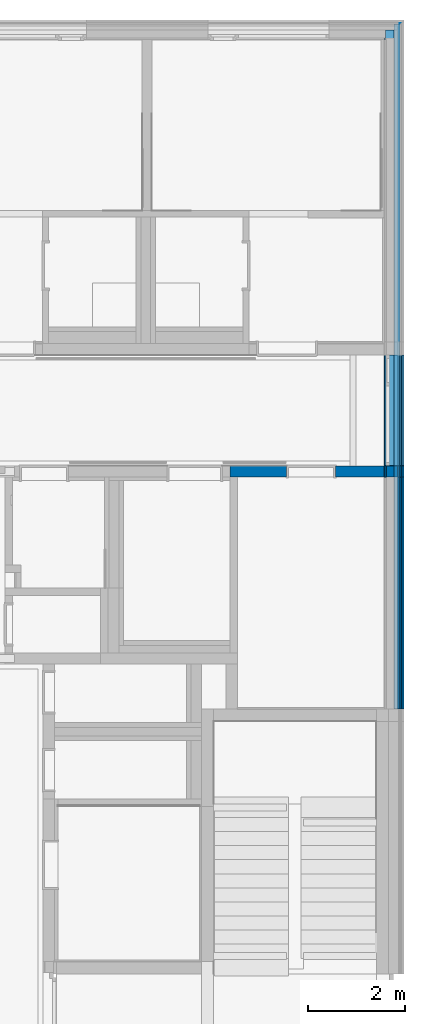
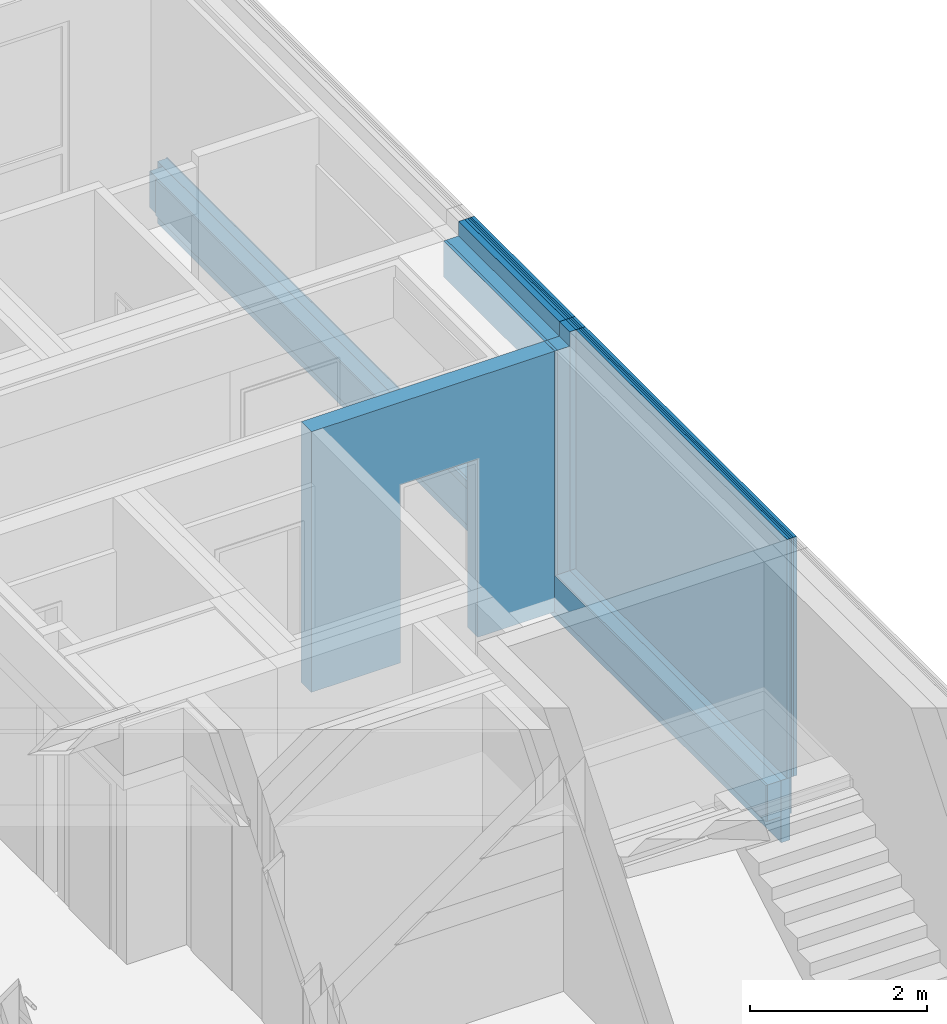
# One storey, part 57 of 207: 23 walls, 8 openings.
"""IFC4 building model written with IfcOpenShell, lengths in metres."""

from ifc_helpers import new_model, entity, si_unit, converted_unit, derived_unit, frame, frame_2d, origin, origin_with_axes, place, context, subcontext, project, spatial, polyline, rectangle, outline, extrude, material, element, save


model = new_model("IFC4")

# Units and contexts
model_context = context("Model", 3, precision=1e-05, world=origin())
body_context = subcontext(model_context, "Body", "Model", "MODEL_VIEW")
ifc_project = project(units=[si_unit("LENGTHUNIT", "METRE"), si_unit("AREAUNIT", "SQUARE_METRE"), si_unit("VOLUMEUNIT", "CUBIC_METRE"), si_unit("MASSUNIT", "GRAM", prefix="KILO"), converted_unit("PLANEANGLEUNIT", "DEGREE", entity("IfcPlaneAngleMeasure", 0.0174532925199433), si_unit("PLANEANGLEUNIT", "RADIAN"), dimensions=[0, 0, 0, 0, 0, 0, 0]), derived_unit("THERMALTRANSMITTANCEUNIT", [(si_unit("POWERUNIT", "WATT"), 1), (si_unit("THERMODYNAMICTEMPERATUREUNIT", "KELVIN"), -1), (si_unit("LENGTHUNIT", "METRE"), -2)]), derived_unit("VOLUMETRICFLOWRATEUNIT", [(si_unit("LENGTHUNIT", "METRE"), 3), (converted_unit("TIMEUNIT", "hour", entity("IfcTimeMeasure", 3600.0), si_unit("TIMEUNIT", "SECOND"), dimensions=[0, 0, 1, 0, 0, 0, 0]), -1), (si_unit("LENGTHUNIT", "METRE"), -1)])], contexts=[model_context])

# Site, building, storey
site_placement = place(None, origin())
site = spatial("IfcSite", under=ifc_project, at=site_placement, Name="Psychiatrie Neubau Wunstorf", CompositionType="ELEMENT")
building_placement = place(site_placement, origin())
building = spatial("IfcBuilding", under=site, at=building_placement, Name="Neubau H2 Stationsgebäude", CompositionType="ELEMENT")
storey_placement = place(building_placement, frame((0.0, 0.0, -0.2)))
storey = spatial("IfcBuildingStorey", under=building, at=storey_placement, Name="H2 Ebene 0", CompositionType="ELEMENT", Elevation=-0.2)

# Wall, opening
ifc_material_1 = material(Name="WA-LB")
wall_1_placement = place(storey_placement, frame((105.889, 25.1175, 0.5), z_axis=(0.0, 0.0, 1.0), x_axis=(0.0, -1.0, 0.0)))
wall_1 = element("IfcWall", 1, at=wall_1_placement, inside=storey, material=ifc_material_1, context=body_context, shape_type="SweptSolid", body=[
    extrude(rectangle(XDim=2.28150000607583, YDim=0.036, at=frame_2d((1.14075000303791, 0.018), x_axis=(1.0, 0.0))), origin_with_axes(), (0.0, 0.0, 1.0), 3.1),
])
opening_1_placement = place(wall_1_placement, frame((0.0, 0.0, 0.1), z_axis=(0.0, 1.0, 0.0), x_axis=(0.0, 0.0, 1.0)))
element("IfcOpeningElement", 2, at=opening_1_placement, cuts=wall_1, Name="Fensteröffnung", ObjectType="Opening", context=body_context, shape_type="SweptSolid", body=[
    extrude(outline(polyline([(2.5, 2.28), (2.5, 0.0), (0.0, 0.0), (0.0, 2.28), (2.5, 2.28)])), origin_with_axes(), (0.0, 0.0, 1.0), 0.036),
])

ifc_material_2 = material(Name="WA-DL")
wall_2_placement = place(storey_placement, frame((105.925, 25.1175, 0.5), z_axis=(0.0, 0.0, 1.0), x_axis=(0.0, -1.0, 0.0)))
wall_2 = element("IfcWall", 3, at=wall_2_placement, inside=storey, material=ifc_material_2, context=body_context, shape_type="SweptSolid", body=[
    extrude(rectangle(XDim=2.28150000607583, YDim=0.16, at=frame_2d((1.14075000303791, 0.08), x_axis=(1.0, 0.0))), origin_with_axes(), (0.0, 0.0, 1.0), 3.1),
])
opening_2_placement = place(wall_2_placement, frame((0.0, 0.0, 0.1), z_axis=(0.0, 1.0, 0.0), x_axis=(0.0, 0.0, 1.0)))
element("IfcOpeningElement", 4, at=opening_2_placement, cuts=wall_2, Name="Fensteröffnung", ObjectType="Opening", context=body_context, shape_type="SweptSolid", body=[
    extrude(outline(polyline([(2.5, 2.28), (2.5, 0.0), (0.0, 0.0), (0.0, 2.28), (2.5, 2.28)])), origin_with_axes(), (0.0, 0.0, 1.0), 0.16),
])

ifc_material_3 = material(Name="WA-DL")
wall_3_placement = place(storey_placement, frame((106.085, 25.1175, 0.5), z_axis=(0.0, 0.0, 1.0), x_axis=(0.0, -1.0, 0.0)))
wall_3 = element("IfcWall", 5, at=wall_3_placement, inside=storey, material=ifc_material_3, context=body_context, shape_type="SweptSolid", body=[
    extrude(rectangle(XDim=2.28150000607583, YDim=0.08, at=frame_2d((1.14075000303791, 0.04), x_axis=(1.0, 0.0))), origin_with_axes(), (0.0, 0.0, 1.0), 3.3),
])
opening_3_placement = place(wall_3_placement, frame((0.0, 0.0, 0.1), z_axis=(0.0, 1.0, 0.0), x_axis=(0.0, 0.0, 1.0)))
element("IfcOpeningElement", 6, at=opening_3_placement, cuts=wall_3, Name="Fensteröffnung", ObjectType="Opening", context=body_context, shape_type="SweptSolid", body=[
    extrude(outline(polyline([(2.5, 2.28), (2.5, 0.0), (0.0, 0.0), (0.0, 2.28), (2.5, 2.28)])), origin_with_axes(), (0.0, 0.0, 1.0), 0.08),
])

ifc_material_4 = material(Name="WA-TP")
wall_4_placement = place(storey_placement, frame((106.165, 25.1175, 0.5), z_axis=(0.0, 0.0, 1.0), x_axis=(0.0, -1.0, 0.0)))
wall_4 = element("IfcWall", 7, at=wall_4_placement, inside=storey, material=ifc_material_4, context=body_context, shape_type="SweptSolid", body=[
    extrude(rectangle(XDim=2.28150000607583, YDim=0.036, at=frame_2d((1.14075000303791, 0.018), x_axis=(1.0, 0.0))), origin_with_axes(), (0.0, 0.0, 1.0), 3.3),
])
opening_4_placement = place(wall_4_placement, frame((0.0, 0.0, 0.1), z_axis=(0.0, 1.0, 0.0), x_axis=(0.0, 0.0, 1.0)))
element("IfcOpeningElement", 8, at=opening_4_placement, cuts=wall_4, Name="Fensteröffnung", ObjectType="Opening", context=body_context, shape_type="SweptSolid", body=[
    extrude(outline(polyline([(2.5, 2.28), (2.5, 0.0), (0.0, 0.0), (0.0, 2.28), (2.5, 2.28)])), origin_with_axes(), (0.0, 0.0, 1.0), 0.036),
])

ifc_material_5 = material(Name="WA-KL")
wall_5_placement = place(storey_placement, frame((106.201, 25.1175, 0.5), z_axis=(0.0, 0.0, 1.0), x_axis=(0.0, -1.0, 0.0)))
wall_5 = element("IfcWall", 9, at=wall_5_placement, inside=storey, material=ifc_material_5, context=body_context, shape_type="SweptSolid", body=[
    extrude(rectangle(XDim=2.28150000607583, YDim=0.024, at=frame_2d((1.14075000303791, 0.012), x_axis=(1.0, 0.0))), origin_with_axes(), (0.0, 0.0, 1.0), 3.3),
])
opening_5_placement = place(wall_5_placement, frame((0.0, 0.0, 0.1), z_axis=(0.0, 1.0, 0.0), x_axis=(0.0, 0.0, 1.0)))
element("IfcOpeningElement", 10, at=opening_5_placement, cuts=wall_5, Name="Fensteröffnung", ObjectType="Opening", context=body_context, shape_type="SweptSolid", body=[
    extrude(outline(polyline([(2.5, 2.28), (2.5, 0.0), (0.0, 0.0), (0.0, 2.28), (2.5, 2.28)])), origin_with_axes(), (0.0, 0.0, 1.0), 0.024),
])

ifc_material_6 = material(Name="WA-TL")
wall_6_placement = place(storey_placement, frame((106.225, 25.1175, 0.5), z_axis=(0.0, 0.0, 1.0), x_axis=(0.0, -1.0, 0.0)))
wall_6 = element("IfcWall", 11, at=wall_6_placement, inside=storey, material=ifc_material_6, context=body_context, shape_type="SweptSolid", body=[
    extrude(rectangle(XDim=2.28150000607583, YDim=0.024, at=frame_2d((1.14075000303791, 0.012), x_axis=(1.0, 0.0))), origin_with_axes(), (0.0, 0.0, 1.0), 3.3),
])
opening_6_placement = place(wall_6_placement, frame((0.0, 0.0, 0.1), z_axis=(0.0, 1.0, 0.0), x_axis=(0.0, 0.0, 1.0)))
element("IfcOpeningElement", 12, at=opening_6_placement, cuts=wall_6, Name="Fensteröffnung", ObjectType="Opening", context=body_context, shape_type="SweptSolid", body=[
    extrude(outline(polyline([(2.5, 2.28), (2.5, 0.0), (0.0, 0.0), (0.0, 2.28), (2.5, 2.28)])), origin_with_axes(), (0.0, 0.0, 1.0), 0.024),
])

ifc_material_7 = material(Name="WA-HS")
wall_7_placement = place(storey_placement, frame((106.249, 25.1175, 0.5), z_axis=(0.0, 0.0, 1.0), x_axis=(0.0, -1.0, 0.0)))
wall_7 = element("IfcWall", 13, at=wall_7_placement, inside=storey, material=ifc_material_7, context=body_context, shape_type="SweptSolid", body=[
    extrude(rectangle(XDim=2.28150000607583, YDim=0.042, at=frame_2d((1.14075000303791, 0.021), x_axis=(1.0, 0.0))), origin_with_axes(), (0.0, 0.0, 1.0), 3.3),
])
opening_7_placement = place(wall_7_placement, frame((0.0, 0.0, 0.1), z_axis=(0.0, 1.0, 0.0), x_axis=(0.0, 0.0, 1.0)))
element("IfcOpeningElement", 14, at=opening_7_placement, cuts=wall_7, Name="Fensteröffnung", ObjectType="Opening", context=body_context, shape_type="SweptSolid", body=[
    extrude(outline(polyline([(2.5, 2.28), (2.5, 0.0), (0.0, 0.0), (0.0, 2.28), (2.5, 2.28)])), origin_with_axes(), (0.0, 0.0, 1.0), 0.042),
])

# Walls
ifc_material_8 = material(Name="WA-LB")
wall_8_placement = place(storey_placement, frame((105.889, 22.8359999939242, 0.5), z_axis=(0.0, 0.0, 1.0), x_axis=(0.0, -1.0, 0.0)))
element("IfcWall", 15, at=wall_8_placement, inside=storey, material=ifc_material_8, context=body_context, shape_type="SweptSolid", body=[
    extrude(rectangle(XDim=0.231995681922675, YDim=0.036, at=frame_2d((0.115997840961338, 0.018), x_axis=(1.0, 0.0))), origin_with_axes(), (0.0, 0.0, 1.0), 3.1),
])
ifc_material_9 = material(Name="WA-HD")
wall_9_placement = place(storey_placement, frame((105.925, 22.8359999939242, 0.5), z_axis=(0.0, 0.0, 1.0), x_axis=(0.0, -1.0, 0.0)))
element("IfcWall", 16, at=wall_9_placement, inside=storey, material=ifc_material_9, context=body_context, shape_type="SweptSolid", body=[
    extrude(rectangle(XDim=0.231995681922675, YDim=0.16, at=frame_2d((0.115997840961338, 0.08), x_axis=(1.0, 0.0))), origin_with_axes(), (0.0, 0.0, 1.0), 3.1),
])
ifc_material_10 = material(Name="WA-DL")
wall_10_placement = place(storey_placement, frame((106.085, 22.8359999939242, 0.5), z_axis=(0.0, 0.0, 1.0), x_axis=(0.0, -1.0, 0.0)))
element("IfcWall", 17, at=wall_10_placement, inside=storey, material=ifc_material_10, context=body_context, shape_type="SweptSolid", body=[
    extrude(rectangle(XDim=0.231995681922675, YDim=0.08, at=frame_2d((0.115997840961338, 0.04), x_axis=(1.0, 0.0))), origin_with_axes(), (0.0, 0.0, 1.0), 3.3),
])
ifc_material_11 = material(Name="WA-TP")
wall_11_placement = place(storey_placement, frame((106.165, 22.8359999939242, 0.5), z_axis=(0.0, 0.0, 1.0), x_axis=(0.0, -1.0, 0.0)))
element("IfcWall", 18, at=wall_11_placement, inside=storey, material=ifc_material_11, context=body_context, shape_type="SweptSolid", body=[
    extrude(rectangle(XDim=0.231995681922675, YDim=0.036, at=frame_2d((0.115997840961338, 0.018), x_axis=(1.0, 0.0))), origin_with_axes(), (0.0, 0.0, 1.0), 3.3),
])
ifc_material_12 = material(Name="WA-KL")
wall_12_placement = place(storey_placement, frame((106.201, 22.8359999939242, 0.5), z_axis=(0.0, 0.0, 1.0), x_axis=(0.0, -1.0, 0.0)))
element("IfcWall", 19, at=wall_12_placement, inside=storey, material=ifc_material_12, context=body_context, shape_type="SweptSolid", body=[
    extrude(rectangle(XDim=0.231995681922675, YDim=0.024, at=frame_2d((0.115997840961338, 0.012), x_axis=(1.0, 0.0))), origin_with_axes(), (0.0, 0.0, 1.0), 3.3),
])
ifc_material_13 = material(Name="WA-TL")
wall_13_placement = place(storey_placement, frame((106.225, 22.8359999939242, 0.5), z_axis=(0.0, 0.0, 1.0), x_axis=(0.0, -1.0, 0.0)))
element("IfcWall", 20, at=wall_13_placement, inside=storey, material=ifc_material_13, context=body_context, shape_type="SweptSolid", body=[
    extrude(rectangle(XDim=0.231995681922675, YDim=0.024, at=frame_2d((0.115997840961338, 0.012), x_axis=(1.0, 0.0))), origin_with_axes(), (0.0, 0.0, 1.0), 3.3),
])
ifc_material_14 = material(Name="WA-HS")
wall_14_placement = place(storey_placement, frame((106.249, 22.8359999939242, 0.5), z_axis=(0.0, 0.0, 1.0), x_axis=(0.0, -1.0, 0.0)))
element("IfcWall", 21, at=wall_14_placement, inside=storey, material=ifc_material_14, context=body_context, shape_type="SweptSolid", body=[
    extrude(rectangle(XDim=0.231995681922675, YDim=0.042, at=frame_2d((0.115997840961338, 0.021), x_axis=(1.0, 0.0))), origin_with_axes(), (0.0, 0.0, 1.0), 3.3),
])
ifc_material_15 = material(Name="WA-TP")
wall_15_placement = place(storey_placement, frame((106.165, 22.604, 0.5), z_axis=(0.0, 0.0, 1.0), x_axis=(0.0, -1.0, 0.0)))
element("IfcWall", 22, at=wall_15_placement, inside=storey, material=ifc_material_15, context=body_context, shape_type="SweptSolid", body=[
    extrude(rectangle(XDim=4.77899999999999, YDim=0.036, at=frame_2d((2.38949999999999, 0.018), x_axis=(1.0, 0.0))), origin_with_axes(), (0.0, 0.0, 1.0), 3.3),
])
ifc_material_16 = material(Name="WA-KL")
wall_16_placement = place(storey_placement, frame((106.201, 22.604, 0.5), z_axis=(0.0, 0.0, 1.0), x_axis=(0.0, -1.0, 0.0)))
element("IfcWall", 23, at=wall_16_placement, inside=storey, material=ifc_material_16, context=body_context, shape_type="SweptSolid", body=[
    extrude(rectangle(XDim=4.77899999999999, YDim=0.024, at=frame_2d((2.38949999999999, 0.012), x_axis=(1.0, 0.0))), origin_with_axes(), (0.0, 0.0, 1.0), 3.3),
])
ifc_material_17 = material(Name="WA-TL")
wall_17_placement = place(storey_placement, frame((106.225, 22.604, 0.5), z_axis=(0.0, 0.0, 1.0), x_axis=(0.0, -1.0, 0.0)))
element("IfcWall", 24, at=wall_17_placement, inside=storey, material=ifc_material_17, context=body_context, shape_type="SweptSolid", body=[
    extrude(rectangle(XDim=4.77899999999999, YDim=0.024, at=frame_2d((2.38949999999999, 0.012), x_axis=(1.0, 0.0))), origin_with_axes(), (0.0, 0.0, 1.0), 3.3),
])
ifc_material_18 = material(Name="WA-HS")
wall_18_placement = place(storey_placement, frame((106.249, 22.604, 0.5), z_axis=(0.0, 0.0, 1.0), x_axis=(0.0, -1.0, 0.0)))
element("IfcWall", 25, at=wall_18_placement, inside=storey, material=ifc_material_18, context=body_context, shape_type="SweptSolid", body=[
    extrude(rectangle(XDim=4.77899999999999, YDim=0.042, at=frame_2d((2.38949999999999, 0.021), x_axis=(1.0, 0.0))), origin_with_axes(), (0.0, 0.0, 1.0), 3.3),
])
ifc_material_19 = material(Name="WA-LB")
wall_19_placement = place(storey_placement, frame((105.889, 31.635, 0.0), z_axis=(0.0, 0.0, 1.0), x_axis=(0.0, -1.0, 0.0)))
element("IfcWall", 26, at=wall_19_placement, inside=storey, material=ifc_material_19, context=body_context, shape_type="SweptSolid", body=[
    extrude(rectangle(XDim=13.81, YDim=0.021, at=frame_2d((6.905, 0.0105), x_axis=(1.0, 0.0))), origin_with_axes(), (0.0, 0.0, 1.0), 0.5),
])
ifc_material_20 = material(Name="WA-STB")
wall_20_placement = place(storey_placement, frame((105.91, 31.81, 0.0), z_axis=(0.0, 0.0, 1.0), x_axis=(0.0, -1.0, 0.0)))
element("IfcWall", 27, at=wall_20_placement, inside=storey, material=ifc_material_20, context=body_context, shape_type="SweptSolid", body=[
    extrude(rectangle(XDim=13.985, YDim=0.175, at=frame_2d((6.9925, 0.0875), x_axis=(1.0, 0.0))), origin_with_axes(), (0.0, 0.0, 1.0), 0.5),
])
ifc_material_21 = material(Name="WA-DE")
wall_21_placement = place(storey_placement, frame((106.085, 31.93, -0.36), z_axis=(0.0, 0.0, 1.0), x_axis=(0.0, -1.0, 0.0)))
element("IfcWall", 28, at=wall_21_placement, inside=storey, material=ifc_material_21, context=body_context, shape_type="SweptSolid", body=[
    extrude(rectangle(XDim=14.105, YDim=0.12, at=frame_2d((7.0525, 0.06), x_axis=(1.0, 0.0))), origin_with_axes(), (0.0, 0.0, 1.0), 0.86),
])
ifc_material_22 = material(Name="WA-LB")
wall_22_placement = place(storey_placement, frame((106.205, 31.945, 0.0), z_axis=(0.0, 0.0, 1.0), x_axis=(0.0, -1.0, 0.0)))
element("IfcWall", 29, at=wall_22_placement, inside=storey, material=ifc_material_22, context=body_context, shape_type="SweptSolid", body=[
    extrude(rectangle(XDim=14.12, YDim=0.015, at=frame_2d((7.06, 0.0075), x_axis=(1.0, 0.0))), origin_with_axes(), (0.0, 0.0, 1.0), 0.5),
])

# Wall, opening
ifc_material_23 = material(Name="WI-HW 60")
wall_23_placement = place(storey_placement, frame((102.710993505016, 22.6040000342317, 0.0), z_axis=(0.0, 0.0, 1.0), x_axis=(1.0, -1.07714356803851e-08, 0.0)))
wall_23 = element("IfcWall", 30, at=wall_23_placement, inside=storey, material=ifc_material_23, context=body_context, shape_type="SweptSolid", body=[
    extrude(outline(polyline([(0.150006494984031, 0.0), (3.17800649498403, 3.42316925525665e-08), (3.17800649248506, 0.232000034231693), (0.0, 0.232), (0.0, 3.42316925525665e-08), (0.150006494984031, 0.0)])), frame((0.0, -3.42316925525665e-08, 0.0), z_axis=(0.0, 0.0, 1.0), x_axis=(1.0, 0.0, 0.0)), (0.0, 0.0, 1.0), 3.6),
])
opening_8_placement = place(wall_23_placement, frame((1.16155181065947, -2.17201119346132e-08, 0.0), z_axis=(-1.07714358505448e-08, 1.0, 0.0), x_axis=(0.0, 0.0, 1.0)))
element("IfcOpeningElement", 31, at=opening_8_placement, cuts=wall_23, Name="SMT", ObjectType="Opening", context=body_context, shape_type="SweptSolid", body=[
    extrude(outline(polyline([(2.46, 1.01), (2.46, 0.0), (0.0, 0.0), (0.0, 1.01), (2.46, 1.01)])), origin_with_axes(), (0.0, 0.0, 1.0), 0.232),
])

save(model, "model.ifc")
